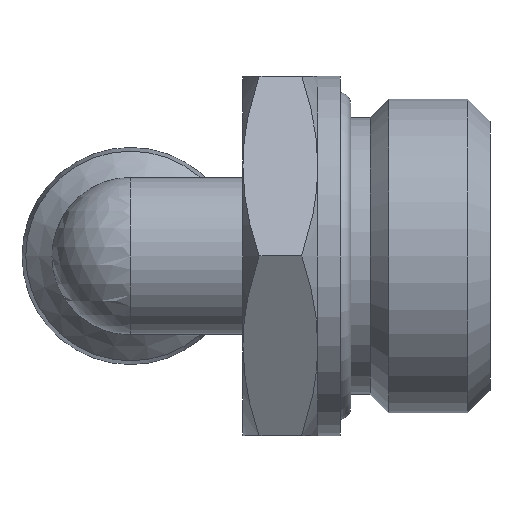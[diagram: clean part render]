
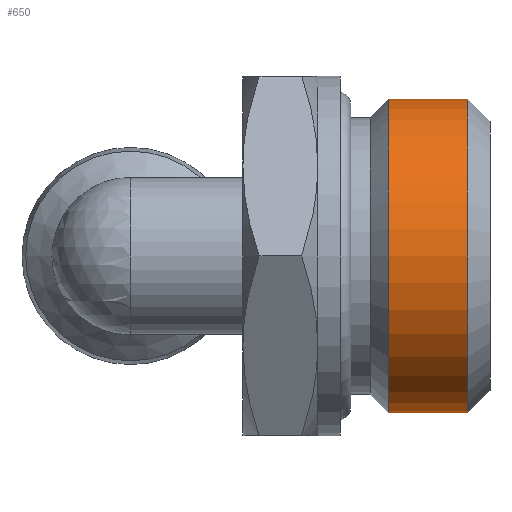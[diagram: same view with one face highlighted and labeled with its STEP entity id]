
A CAD part, left-side view. The second image highlights one B-rep face of the part: STEP entity #650.
In plain terms, the highlighted cylindrical face has radius 10.477 mm (diameter 20.955 mm), a full revolution.
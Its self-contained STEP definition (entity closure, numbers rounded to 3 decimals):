
#84=FACE_BOUND('',#216,.T.);
#106=CYLINDRICAL_SURFACE('',#736,10.478);
#148=FACE_OUTER_BOUND('',#215,.T.);
#215=EDGE_LOOP('',(#537));
#216=EDGE_LOOP('',(#538));
#272=CIRCLE('',#732,10.478);
#275=CIRCLE('',#737,10.478);
#331=VERTEX_POINT('',#1206);
#334=VERTEX_POINT('',#1214);
#407=EDGE_CURVE('',#331,#331,#272,.T.);
#410=EDGE_CURVE('',#334,#334,#275,.T.);
#537=ORIENTED_EDGE('',*,*,#410,.T.);
#538=ORIENTED_EDGE('',*,*,#407,.F.);
#650=ADVANCED_FACE('',(#148,#84),#106,.T.);
#732=AXIS2_PLACEMENT_3D('',#1207,#899,#900);
#736=AXIS2_PLACEMENT_3D('',#1213,#907,#908);
#737=AXIS2_PLACEMENT_3D('',#1215,#909,#910);
#899=DIRECTION('center_axis',(0.,-1.,0.));
#900=DIRECTION('ref_axis',(-1.,0.,0.));
#907=DIRECTION('center_axis',(0.,-1.,0.));
#908=DIRECTION('ref_axis',(1.,0.,0.));
#909=DIRECTION('center_axis',(0.,-1.,0.));
#910=DIRECTION('ref_axis',(1.,0.,0.));
#1206=CARTESIAN_POINT('',(10.478,-22.5,0.));
#1207=CARTESIAN_POINT('Origin',(0.,-22.5,0.));
#1213=CARTESIAN_POINT('Origin',(0.,-20.614,0.));
#1214=CARTESIAN_POINT('',(10.478,-17.228,0.));
#1215=CARTESIAN_POINT('Origin',(0.,-17.228,0.));
